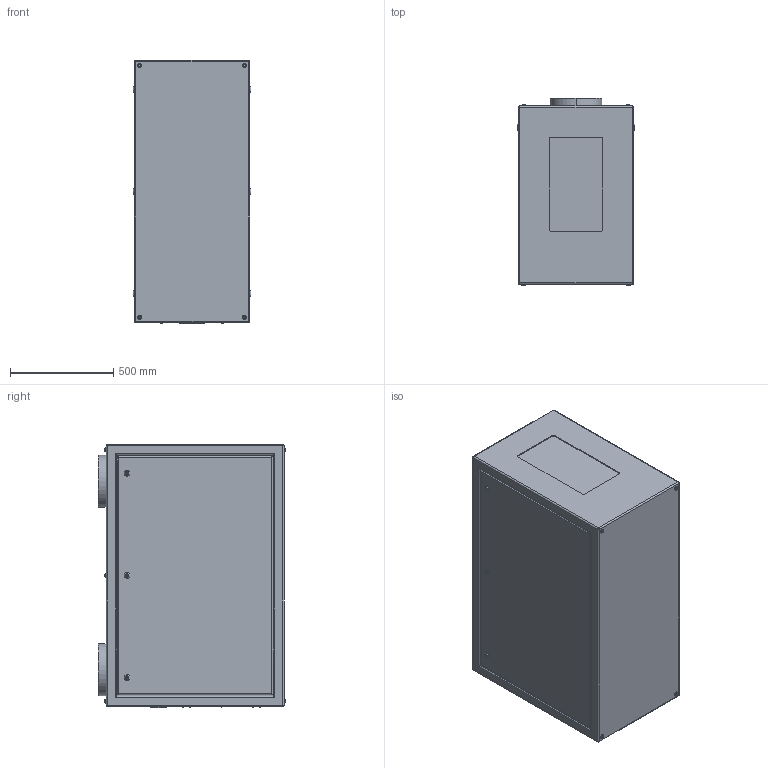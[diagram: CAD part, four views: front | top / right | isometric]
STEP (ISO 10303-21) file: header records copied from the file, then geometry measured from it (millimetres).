
FILE_DESCRIPTION (( 'STEP AP214' ), '1' );
FILE_NAME ('Tacit 56.250.P R08.STEP', '2022-09-11T22:35:43', ( '' ), ( '' ), 'SwSTEP 2.0', 'SolidWorks 2020', '' );
FILE_SCHEMA (( 'AUTOMOTIVE_DESIGN' ));
Length unit declared in the file: inch
Products named in the file (1): Tacit 56.250.P R08
Bounding box: 571.5 x 908.96 x 1275.08 mm (x, y, z)
Volume: 611512191.7 mm3; surface area: 4953317 mm2
Topology: 1 solids, 7 shells, 401 faces, 892 edges, 560 vertices
Faces by surface type: plane 177, cylinder 168, torus 48, sphere 8
Entity records: 15563 total; most frequent: CARTESIAN_POINT 2414, DIRECTION 1972, ORIENTED_EDGE 1768, EDGE_CURVE 884, AXIS2_PLACEMENT_3D 782, VERTEX_POINT 560, EDGE_LOOP 464, VECTOR 408
